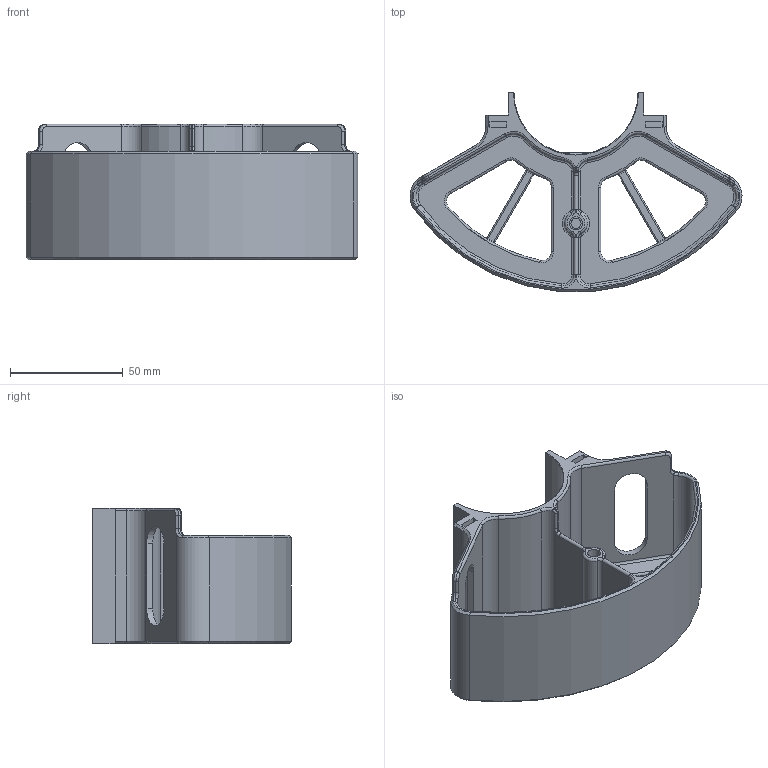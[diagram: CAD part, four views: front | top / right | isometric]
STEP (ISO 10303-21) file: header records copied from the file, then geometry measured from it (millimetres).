
FILE_DESCRIPTION(/* description */ ('Alibre Inc.'),/* implementation_level */ '2;1');
FILE_NAME(/* name */ 'export-DC0A1DA7-AB0E-413D-BCF3-5BBE2AC49B23',/* time_stamp */ '2026-01-22T09:33:30+00:00',/* author */ (''),/* organization */ (''),/* preprocessor_version */ 'ST-DEVELOPER v17',/* originating_system */ 'Alibre',/* authorisation */ '');
FILE_SCHEMA (('CONFIG_CONTROL_DESIGN'));
Length unit declared in the file: millimetre
Bounding box: 147.24 x 88.17 x 60 mm (x, y, z)
Volume: 88559.6 mm3; surface area: 55025.6 mm2
Topology: 1 solids, 1 shells, 252 faces, 602 edges, 362 vertices
Faces by surface type: cylinder 80, plane 79, torus 61, bspline 20, cone 12
Full cylindrical faces by diameter (mm): 4.5 x9, 5.8 x1
Entity records: 8956 total; most frequent: CARTESIAN_POINT 3250, ORIENTED_EDGE 1176, DIRECTION 1099, EDGE_CURVE 588, AXIS2_PLACEMENT_3D 491, VERTEX_POINT 358, EDGE_LOOP 292, FACE_BOUND 292
